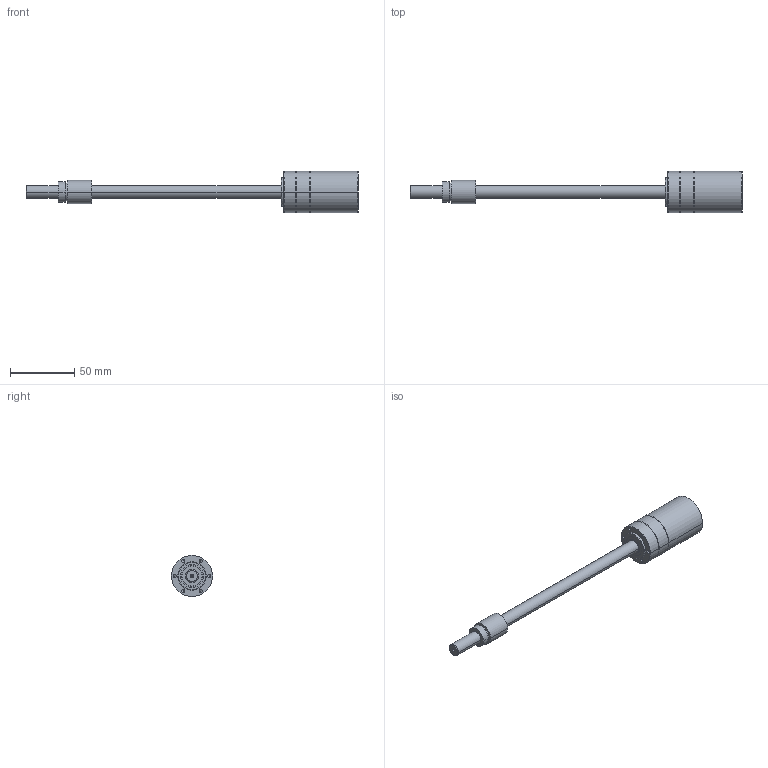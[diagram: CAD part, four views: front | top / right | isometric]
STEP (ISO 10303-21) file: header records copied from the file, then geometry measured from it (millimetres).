
FILE_DESCRIPTION((''),'2;1');
FILE_NAME('2633831','2016-10-05T',('mmagvisi'),(''),'CREO PARAMETRIC BY PTC INC, 2016050','CREO PARAMETRIC BY PTC INC, 2016050','');
FILE_SCHEMA(('CONFIG_CONTROL_DESIGN'));
Length unit declared in the file: millimetre
Products named in the file (1): 2633831
Bounding box: 258.5 x 32 x 32 mm (x, y, z)
Volume: 61905 mm3; surface area: 15993.9 mm2
Topology: 1 solids, 1 shells, 97 faces, 210 edges, 117 vertices
Faces by surface type: cone 42, cylinder 40, plane 13, torus 2
Entity records: 2706 total; most frequent: DIRECTION 494, CARTESIAN_POINT 486, ORIENTED_EDGE 392, AXIS2_PLACEMENT_3D 205, EDGE_CURVE 196, VERTEX_POINT 117, EDGE_LOOP 115, CIRCLE 108
